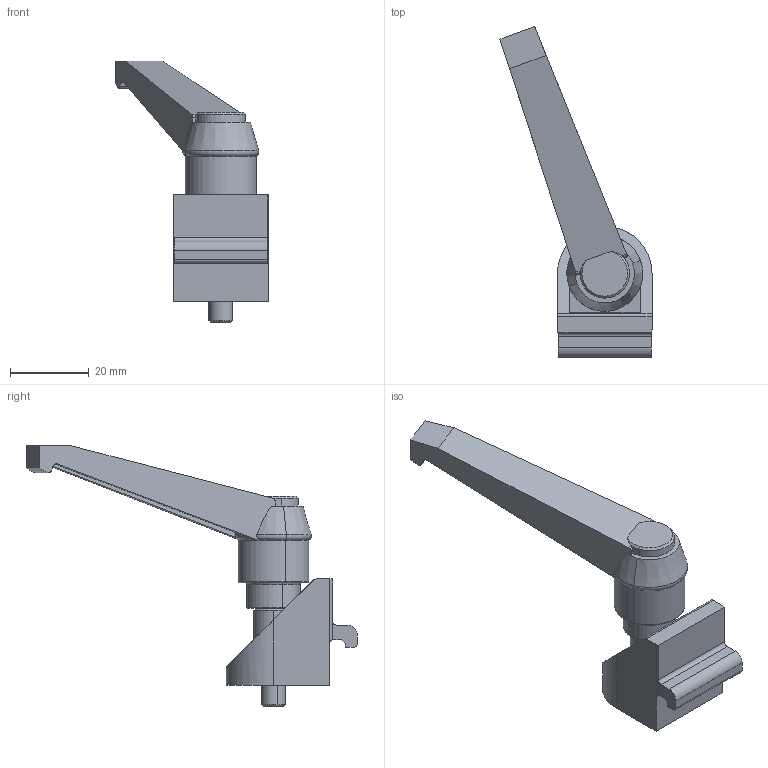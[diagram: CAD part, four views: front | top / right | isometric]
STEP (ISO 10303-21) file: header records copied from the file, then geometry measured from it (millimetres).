
FILE_DESCRIPTION (( 'STEP AP203' ), '1' );
FILE_NAME ('0106KWKH.STEP', '2024-09-04T08:49:22', ( 'Windows-Benutzer' ), ( '' ), 'SwSTEP 2.0', 'SolidWorks 2024', '' );
FILE_SCHEMA (( 'CONFIG_CONTROL_DESIGN' ));
Length unit declared in the file: millimetre
Products named in the file (4): 093WKF301N06A_b2_Standard<Wie bearbeitet>; 093WKF301N06A_b3_Standard<Wie bearbeitet>; Geotech 0106KW Klemmwinkel 6_Standard<Wie bearbeitet>; 0106KWKH
Assembly tree (3 placements, depth 2):
  0106KWKH
    093WKF301N06A_b2_Standard<Wie bearbeitet>
    093WKF301N06A_b3_Standard<Wie bearbeitet>
    Geotech 0106KW Klemmwinkel 6_Standard<Wie bearbeitet>
Bounding box: 38.62 x 83.98 x 66.5 mm (x, y, z)
Volume: 17718.5 mm3; surface area: 10637.5 mm2
Topology: 3 solids, 3 shells, 121 faces, 306 edges, 195 vertices
Faces by surface type: plane 58, cylinder 36, cone 17, torus 10
Entity records: 4119 total; most frequent: CARTESIAN_POINT 810, DIRECTION 615, ORIENTED_EDGE 612, EDGE_CURVE 306, AXIS2_PLACEMENT_3D 222, VERTEX_POINT 195, VECTOR 171, LINE 171
